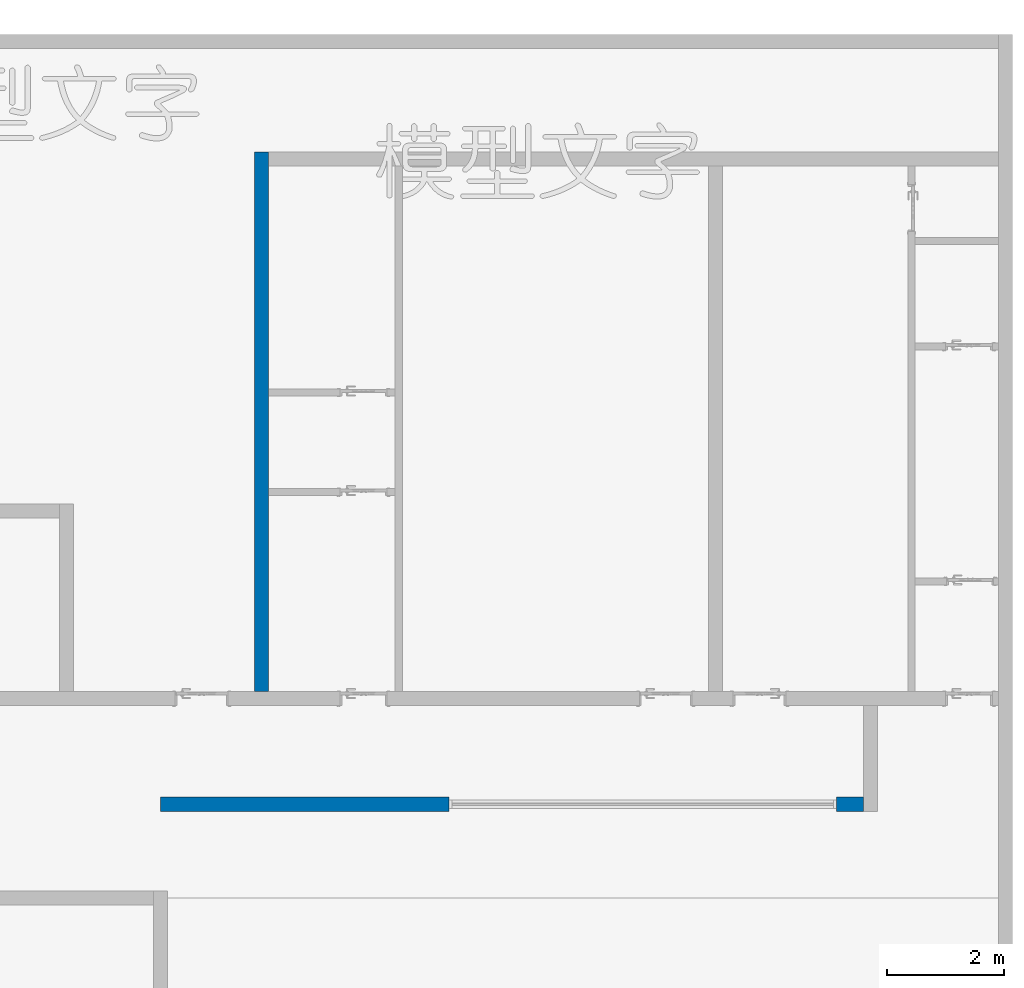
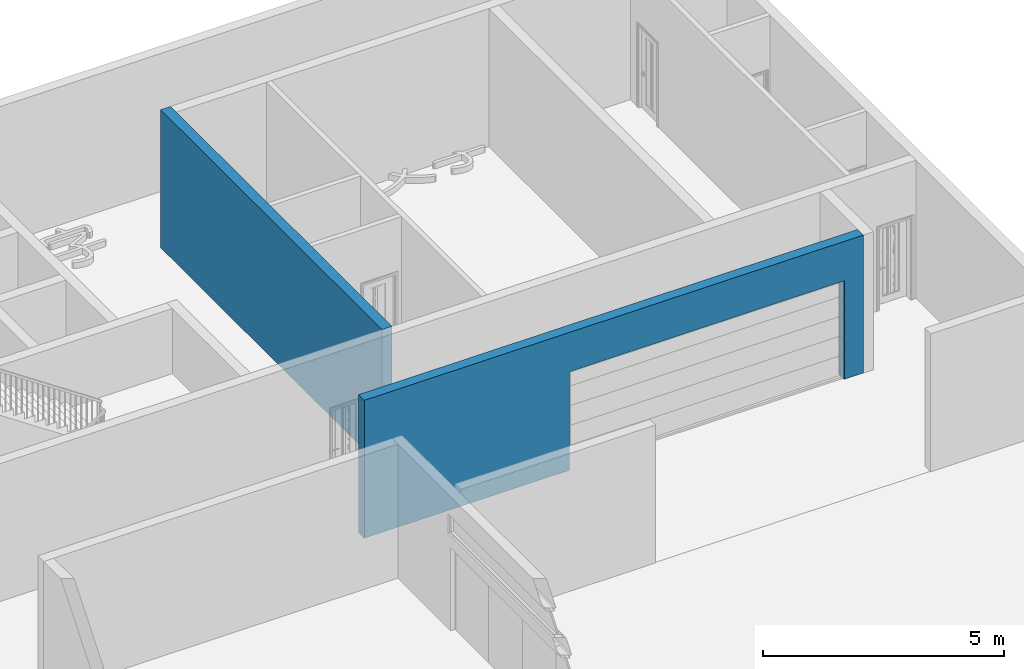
# One storey, part 9 of 24: 2 walls, 1 opening.
"""IFC2X3 building model written with IfcOpenShell, lengths in millimetres."""

from ifc_helpers import new_model, entity, si_unit, converted_unit, derived_unit, direction, frame, frame_2d, origin, place, context, subcontext, project, spatial, rectangle, extrude, material, layer, layer_set, layer_usage, type_object, element, save


model = new_model("IFC2X3")

# Units and contexts
model_context = context("Model", 3, precision=0.01, world=origin(), true_north=direction((6.12303176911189e-17, 1.0)))
body_context = subcontext(model_context, "Body", "Model", "MODEL_VIEW")
ifc_project = project(units=[si_unit("LENGTHUNIT", "METRE", prefix="MILLI"), si_unit("AREAUNIT", "SQUARE_METRE"), si_unit("VOLUMEUNIT", "CUBIC_METRE"), converted_unit("PLANEANGLEUNIT", "DEGREE", entity("IfcRatioMeasure", 0.0174532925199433), si_unit("PLANEANGLEUNIT", "RADIAN"), dimensions=[0, 0, 0, 0, 0, 0, 0]), si_unit("MASSUNIT", "GRAM", prefix="KILO"), derived_unit("MASSDENSITYUNIT", [(si_unit("MASSUNIT", "GRAM", prefix="KILO"), 1), (si_unit("LENGTHUNIT", "METRE"), -3)]), si_unit("TIMEUNIT", "SECOND"), si_unit("FREQUENCYUNIT", "HERTZ"), si_unit("THERMODYNAMICTEMPERATUREUNIT", "DEGREE_CELSIUS"), derived_unit("THERMALTRANSMITTANCEUNIT", [(si_unit("MASSUNIT", "GRAM", prefix="KILO"), 1), (si_unit("THERMODYNAMICTEMPERATUREUNIT", "KELVIN"), -1), (si_unit("TIMEUNIT", "SECOND"), -3)]), derived_unit("VOLUMETRICFLOWRATEUNIT", [(si_unit("LENGTHUNIT", "METRE"), 3), (si_unit("TIMEUNIT", "SECOND"), -1)]), si_unit("ELECTRICCURRENTUNIT", "AMPERE"), si_unit("ELECTRICVOLTAGEUNIT", "VOLT"), si_unit("POWERUNIT", "WATT"), si_unit("FORCEUNIT", "NEWTON", prefix="KILO"), si_unit("ILLUMINANCEUNIT", "LUX"), si_unit("LUMINOUSFLUXUNIT", "LUMEN"), si_unit("LUMINOUSINTENSITYUNIT", "CANDELA"), derived_unit("USERDEFINED", [(si_unit("MASSUNIT", "GRAM", prefix="KILO"), -1), (si_unit("LENGTHUNIT", "METRE"), -2), (si_unit("TIMEUNIT", "SECOND"), 3), (si_unit("LUMINOUSFLUXUNIT", "LUMEN"), 1)]), derived_unit("LINEARVELOCITYUNIT", [(si_unit("LENGTHUNIT", "METRE"), 1), (si_unit("TIMEUNIT", "SECOND"), -1)]), si_unit("PRESSUREUNIT", "PASCAL"), derived_unit("USERDEFINED", [(si_unit("LENGTHUNIT", "METRE"), -2), (si_unit("MASSUNIT", "GRAM", prefix="KILO"), 1), (si_unit("TIMEUNIT", "SECOND"), -2)])], contexts=[model_context])

# Site, building, storey
site_placement = place(None, origin())
site = spatial("IfcSite", under=ifc_project, at=site_placement, Name="表面", CompositionType="ELEMENT")
building_placement = place(site_placement, origin())
building = spatial("IfcBuilding", under=site, at=building_placement, CompositionType="ELEMENT")
storey_placement = place(building_placement, frame((0.0, 0.0, -3500.0)))
storey = spatial("IfcBuildingStorey", under=building, at=storey_placement, Name="-1F", CompositionType="ELEMENT", Elevation=-3500.0)

# Wall, opening
ifc_material_1 = material(Name="白色涂料")
ifc_layer_1 = layer(ifc_material_1, 10.0)
ifc_material_2 = material(Name="默认墙")
ifc_layer_2 = layer(ifc_material_2, 220.0)
ifc_layer_3 = layer(ifc_material_1, 10.0)
ifc_layer_set = layer_set([ifc_layer_1, ifc_layer_2, ifc_layer_3], Name="基本墙:粉刷墙240")
ifc_layer_usage_1 = layer_usage(ifc_layer_set, "AXIS2", "NEGATIVE", 120.0)
wall_type = type_object("IfcWallType", Name="基本墙:粉刷墙240", PredefinedType="STANDARD", material=ifc_layer_set)
wall_1_placement = place(storey_placement, frame((8349.75008735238, -10507.8459129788, 0.0), z_axis=(0.0, 0.0, 1.0), x_axis=(-1.0, 0.0, 0.0)))
wall_1 = element("IfcWallStandardCase", 1, at=wall_1_placement, inside=storey, type_object=wall_type, material=ifc_layer_usage_1, Name="基本墙:粉刷墙240", ObjectType="基本墙:粉刷墙240", context=body_context, shape_type="SweptSolid", body=[
    extrude(rectangle(XDim=11980.0, YDim=240.000000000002, at=frame_2d((5990.0, -1.70530256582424e-13), x_axis=(-1.0, 0.0))), origin(), (0.0, 0.0, 1.0), 3500.0),
])
opening_placement = place(wall_1_placement, origin())
element("IfcOpeningElement", 2, at=opening_placement, cuts=wall_1, Name="基本墙:粉刷墙240", ObjectType="Opening", context=body_context, shape_type="SweptSolid", body=[
    extrude(rectangle(XDim=2500.0, YDim=6600.0, at=frame_2d((6.82121026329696e-13, 0.0), x_axis=(0.0, 1.0))), frame((3760.0, -272.399999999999, 1250.0), z_axis=(0.0, 1.0, 0.0), x_axis=(-1.0, 0.0, 0.0)), (0.0, 0.0, 1.0), 544.8),
])

# Wall
ifc_layer_usage_2 = layer_usage(ifc_layer_set, "AXIS2", "NEGATIVE", 120.0)
wall_2_placement = place(storey_placement, frame((-1910.24991264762, -8587.8459129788, 0.0), z_axis=(0.0, 0.0, 1.0), x_axis=(0.0, 1.0, 0.0)))
element("IfcWallStandardCase", 3, at=wall_2_placement, inside=storey, type_object=wall_type, material=ifc_layer_usage_2, Name="基本墙:粉刷墙240", ObjectType="基本墙:粉刷墙240", context=body_context, shape_type="SweptSolid", body=[
    extrude(rectangle(XDim=9199.99999999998, YDim=240.0, at=frame_2d((4599.99999999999, -1.4210854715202e-14), x_axis=(-1.0, 0.0))), origin(), (0.0, 0.0, 1.0), 3500.0),
])

save(model, "model.ifc")
